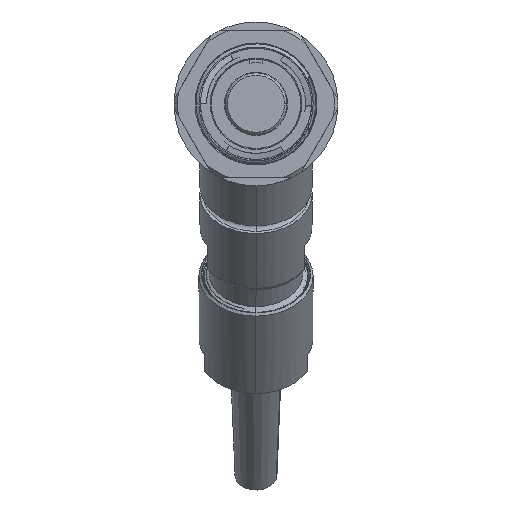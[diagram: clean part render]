
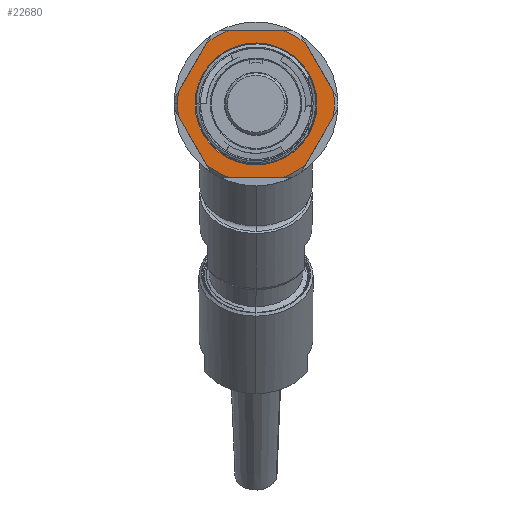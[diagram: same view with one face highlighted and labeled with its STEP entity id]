
A CAD part, top view. The second image highlights one B-rep face of the part: STEP entity #22680.
In plain terms, the highlighted planar face has unit normal (0, 0, 1).
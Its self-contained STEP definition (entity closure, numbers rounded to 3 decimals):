
#363 = AXIS2_PLACEMENT_3D ( 'NONE', #2114, #7643, #6019 ) ;
#528 = VERTEX_POINT ( 'NONE', #5518 ) ;
#547 = LINE ( 'NONE', #9902, #8982 ) ;
#580 = DIRECTION ( 'NONE',  ( 0., 0., 1. ) ) ;
#703 = CARTESIAN_POINT ( 'NONE',  ( 0., 12.89, -14.986 ) ) ;
#770 = EDGE_CURVE ( 'NONE', #5575, #7153, #10962, .T. ) ;
#1234 = VECTOR ( 'NONE', #11006, 1000. ) ;
#1682 = DIRECTION ( 'NONE',  ( 0., 0., 1. ) ) ;
#1727 = DIRECTION ( 'NONE',  ( 0., 0., 1. ) ) ;
#1801 = DIRECTION ( 'NONE',  ( 1., 0., 0. ) ) ;
#1969 = CIRCLE ( 'NONE', #4708, 16.574 ) ;
#2114 = CARTESIAN_POINT ( 'NONE',  ( 0., 0., -14.986 ) ) ;
#2233 = CARTESIAN_POINT ( 'NONE',  ( -12.89, 0., -14.986 ) ) ;
#2505 = AXIS2_PLACEMENT_3D ( 'NONE', #22257, #18680, #24228 ) ;
#2576 = DIRECTION ( 'NONE',  ( 0.5, 0.866, 0. ) ) ;
#2686 = DIRECTION ( 'NONE',  ( 1., 0., 0. ) ) ;
#2731 = AXIS2_PLACEMENT_3D ( 'NONE', #6234, #580, #2686 ) ;
#2971 = CARTESIAN_POINT ( 'NONE',  ( -16.36, -2.652, -14.986 ) ) ;
#3032 = ORIENTED_EDGE ( 'NONE', *, *, #23248, .T. ) ;
#3103 = AXIS2_PLACEMENT_3D ( 'NONE', #8013, #6502, #7894 ) ;
#3270 = EDGE_CURVE ( 'NONE', #16282, #22771, #10956, .T. ) ;
#3394 = LINE ( 'NONE', #18382, #1234 ) ;
#3406 = EDGE_CURVE ( 'NONE', #7153, #5575, #14494, .T. ) ;
#3419 = VERTEX_POINT ( 'NONE', #22871 ) ;
#3515 = DIRECTION ( 'NONE',  ( 0., 0., 1. ) ) ;
#3590 = DIRECTION ( 'NONE',  ( 0.5, -0.866, 0. ) ) ;
#3614 = ORIENTED_EDGE ( 'NONE', *, *, #7262, .F. ) ;
#3973 = ORIENTED_EDGE ( 'NONE', *, *, #5829, .T. ) ;
#4042 = ORIENTED_EDGE ( 'NONE', *, *, #18225, .F. ) ;
#4405 = CARTESIAN_POINT ( 'NONE',  ( -16.574, 0., -14.986 ) ) ;
#4498 = CARTESIAN_POINT ( 'NONE',  ( -16.36, 2.652, -14.986 ) ) ;
#4649 = VECTOR ( 'NONE', #7340, 1000. ) ;
#4708 = AXIS2_PLACEMENT_3D ( 'NONE', #23751, #5284, #5169 ) ;
#5034 = VERTEX_POINT ( 'NONE', #4498 ) ;
#5169 = DIRECTION ( 'NONE',  ( 1., 0., 0. ) ) ;
#5284 = DIRECTION ( 'NONE',  ( 0., 0., 1. ) ) ;
#5518 = CARTESIAN_POINT ( 'NONE',  ( -5.884, 15.494, -14.986 ) ) ;
#5575 = VERTEX_POINT ( 'NONE', #2233 ) ;
#5829 = EDGE_CURVE ( 'NONE', #16282, #11217, #7098, .T. ) ;
#5847 = CIRCLE ( 'NONE', #3103, 16.574 ) ;
#5997 = CARTESIAN_POINT ( 'NONE',  ( 16.36, 2.652, -14.986 ) ) ;
#6019 = DIRECTION ( 'NONE',  ( 1., 0., 0. ) ) ;
#6234 = CARTESIAN_POINT ( 'NONE',  ( 0., 0., -14.986 ) ) ;
#6502 = DIRECTION ( 'NONE',  ( 0., 0., 1. ) ) ;
#7036 = EDGE_CURVE ( 'NONE', #22133, #19337, #3394, .T. ) ;
#7098 = CIRCLE ( 'NONE', #20832, 16.574 ) ;
#7153 = VERTEX_POINT ( 'NONE', #13895 ) ;
#7258 = CARTESIAN_POINT ( 'NONE',  ( 0., 0., -14.986 ) ) ;
#7262 = EDGE_CURVE ( 'NONE', #5034, #18942, #13985, .T. ) ;
#7340 = DIRECTION ( 'NONE',  ( 1., 0., 0. ) ) ;
#7465 = VECTOR ( 'NONE', #3590, 1000. ) ;
#7643 = DIRECTION ( 'NONE',  ( 0., 0., 1. ) ) ;
#7894 = DIRECTION ( 'NONE',  ( 1., 0., 0. ) ) ;
#8013 = CARTESIAN_POINT ( 'NONE',  ( 0., 0., -14.986 ) ) ;
#8335 = AXIS2_PLACEMENT_3D ( 'NONE', #703, #20997, #17306 ) ;
#8363 = EDGE_CURVE ( 'NONE', #5034, #21975, #5847, .T. ) ;
#8783 = ORIENTED_EDGE ( 'NONE', *, *, #24195, .T. ) ;
#8982 = VECTOR ( 'NONE', #9660, 1000. ) ;
#9046 = CARTESIAN_POINT ( 'NONE',  ( 0., 0., -14.986 ) ) ;
#9220 = CARTESIAN_POINT ( 'NONE',  ( 5.884, 15.494, -14.986 ) ) ;
#9573 = CIRCLE ( 'NONE', #2505, 16.574 ) ;
#9577 = EDGE_CURVE ( 'NONE', #20606, #21903, #547, .T. ) ;
#9660 = DIRECTION ( 'NONE',  ( -0.5, -0.866, 0. ) ) ;
#9757 = ORIENTED_EDGE ( 'NONE', *, *, #3406, .F. ) ;
#9814 = FACE_OUTER_BOUND ( 'NONE', #16112, .T. ) ;
#9902 = CARTESIAN_POINT ( 'NONE',  ( 19., 1.921, -14.986 ) ) ;
#10508 = CARTESIAN_POINT ( 'NONE',  ( 10.476, -12.842, -14.986 ) ) ;
#10956 = LINE ( 'NONE', #18462, #7465 ) ;
#10962 = CIRCLE ( 'NONE', #2731, 12.89 ) ;
#11006 = DIRECTION ( 'NONE',  ( -0.5, 0.866, 0. ) ) ;
#11217 = VERTEX_POINT ( 'NONE', #9220 ) ;
#11648 = ORIENTED_EDGE ( 'NONE', *, *, #14095, .T. ) ;
#12161 = AXIS2_PLACEMENT_3D ( 'NONE', #9046, #1682, #1801 ) ;
#12165 = EDGE_CURVE ( 'NONE', #20606, #22771, #20011, .T. ) ;
#12185 = CARTESIAN_POINT ( 'NONE',  ( 0., -15.494, -14.986 ) ) ;
#12858 = ORIENTED_EDGE ( 'NONE', *, *, #20552, .T. ) ;
#13080 = DIRECTION ( 'NONE',  ( 1., 0., 0. ) ) ;
#13674 = CARTESIAN_POINT ( 'NONE',  ( -10.476, -12.842, -14.986 ) ) ;
#13895 = CARTESIAN_POINT ( 'NONE',  ( 12.89, 0., -14.986 ) ) ;
#13985 = LINE ( 'NONE', #15836, #18147 ) ;
#14095 = EDGE_CURVE ( 'NONE', #22851, #21903, #22005, .T. ) ;
#14438 = CARTESIAN_POINT ( 'NONE',  ( 10.476, 12.842, -14.986 ) ) ;
#14449 = LINE ( 'NONE', #24189, #4649 ) ;
#14494 = CIRCLE ( 'NONE', #363, 12.89 ) ;
#14612 = DIRECTION ( 'NONE',  ( 1., 0., 0. ) ) ;
#15836 = CARTESIAN_POINT ( 'NONE',  ( -7.836, 17.415, -14.986 ) ) ;
#16112 = EDGE_LOOP ( 'NONE', ( #22082, #17141, #24156, #3973, #4042, #12858, #3614, #23094, #3032, #16908, #8783, #18089, #11648 ) ) ;
#16282 = VERTEX_POINT ( 'NONE', #14438 ) ;
#16602 = DIRECTION ( 'NONE',  ( 1., 0., 0. ) ) ;
#16646 = CARTESIAN_POINT ( 'NONE',  ( -10.476, 12.842, -14.986 ) ) ;
#16720 = DIRECTION ( 'NONE',  ( 0., 0., 1. ) ) ;
#16908 = ORIENTED_EDGE ( 'NONE', *, *, #7036, .F. ) ;
#17141 = ORIENTED_EDGE ( 'NONE', *, *, #12165, .T. ) ;
#17306 = DIRECTION ( 'NONE',  ( -1., 0., 0. ) ) ;
#17917 = AXIS2_PLACEMENT_3D ( 'NONE', #24055, #3515, #13080 ) ;
#18089 = ORIENTED_EDGE ( 'NONE', *, *, #22935, .F. ) ;
#18147 = VECTOR ( 'NONE', #2576, 1000. ) ;
#18225 = EDGE_CURVE ( 'NONE', #528, #11217, #14449, .T. ) ;
#18382 = CARTESIAN_POINT ( 'NONE',  ( -19., 1.921, -14.986 ) ) ;
#18462 = CARTESIAN_POINT ( 'NONE',  ( 7.836, 17.415, -14.986 ) ) ;
#18680 = DIRECTION ( 'NONE',  ( 0., 0., 1. ) ) ;
#18817 = CARTESIAN_POINT ( 'NONE',  ( 0., 0., -14.986 ) ) ;
#18942 = VERTEX_POINT ( 'NONE', #16646 ) ;
#19337 = VERTEX_POINT ( 'NONE', #2971 ) ;
#19444 = LINE ( 'NONE', #12185, #24360 ) ;
#19552 = ORIENTED_EDGE ( 'NONE', *, *, #770, .F. ) ;
#19693 = DIRECTION ( 'NONE',  ( -1., 0., 0. ) ) ;
#20011 = CIRCLE ( 'NONE', #12161, 16.574 ) ;
#20404 = CARTESIAN_POINT ( 'NONE',  ( 16.36, -2.652, -14.986 ) ) ;
#20552 = EDGE_CURVE ( 'NONE', #528, #18942, #9573, .T. ) ;
#20606 = VERTEX_POINT ( 'NONE', #20404 ) ;
#20832 = AXIS2_PLACEMENT_3D ( 'NONE', #7258, #1727, #14612 ) ;
#20997 = DIRECTION ( 'NONE',  ( 0., 0., -1. ) ) ;
#21173 = EDGE_LOOP ( 'NONE', ( #9757, #19552 ) ) ;
#21903 = VERTEX_POINT ( 'NONE', #10508 ) ;
#21975 = VERTEX_POINT ( 'NONE', #4405 ) ;
#22005 = CIRCLE ( 'NONE', #23562, 16.574 ) ;
#22082 = ORIENTED_EDGE ( 'NONE', *, *, #9577, .F. ) ;
#22133 = VERTEX_POINT ( 'NONE', #13674 ) ;
#22257 = CARTESIAN_POINT ( 'NONE',  ( 0., 0., -14.986 ) ) ;
#22680 = ADVANCED_FACE ( 'NONE', ( #22972, #9814 ), #23090, .F. ) ;
#22771 = VERTEX_POINT ( 'NONE', #5997 ) ;
#22851 = VERTEX_POINT ( 'NONE', #23380 ) ;
#22871 = CARTESIAN_POINT ( 'NONE',  ( -5.884, -15.494, -14.986 ) ) ;
#22935 = EDGE_CURVE ( 'NONE', #22851, #3419, #19444, .T. ) ;
#22972 = FACE_BOUND ( 'NONE', #21173, .T. ) ;
#23090 = PLANE ( 'NONE',  #8335 ) ;
#23094 = ORIENTED_EDGE ( 'NONE', *, *, #8363, .T. ) ;
#23248 = EDGE_CURVE ( 'NONE', #21975, #19337, #1969, .T. ) ;
#23380 = CARTESIAN_POINT ( 'NONE',  ( 5.884, -15.494, -14.986 ) ) ;
#23562 = AXIS2_PLACEMENT_3D ( 'NONE', #18817, #16720, #16602 ) ;
#23751 = CARTESIAN_POINT ( 'NONE',  ( 0., 0., -14.986 ) ) ;
#24055 = CARTESIAN_POINT ( 'NONE',  ( 0., 0., -14.986 ) ) ;
#24156 = ORIENTED_EDGE ( 'NONE', *, *, #3270, .F. ) ;
#24189 = CARTESIAN_POINT ( 'NONE',  ( 0., 15.494, -14.986 ) ) ;
#24195 = EDGE_CURVE ( 'NONE', #22133, #3419, #24219, .T. ) ;
#24219 = CIRCLE ( 'NONE', #17917, 16.574 ) ;
#24228 = DIRECTION ( 'NONE',  ( 1., 0., 0. ) ) ;
#24360 = VECTOR ( 'NONE', #19693, 1000. ) ;
